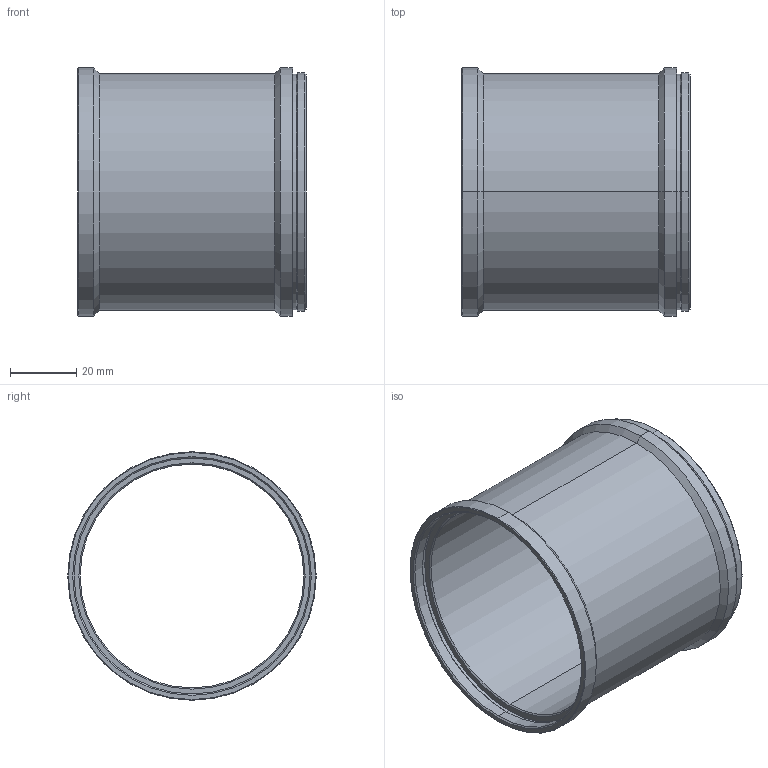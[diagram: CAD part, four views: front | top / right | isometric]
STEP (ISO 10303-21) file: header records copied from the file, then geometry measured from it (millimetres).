
FILE_DESCRIPTION (( 'STEP AP203' ), '1' );
FILE_NAME ('VS-EXR65_M72.STEP', '2018-11-08T00:07:25', ( '' ), ( '' ), 'SwSTEP 2.0', 'SolidWorks 2018', '' );
FILE_SCHEMA (( 'CONFIG_CONTROL_DESIGN' ));
Length unit declared in the file: millimetre
Products named in the file (1): VS-EXR65_M72
Bounding box: 68.9 x 75 x 75 mm (x, y, z)
Volume: 32104.5 mm3; surface area: 32246 mm2
Topology: 1 solids, 1 shells, 40 faces, 80 edges, 44 vertices
Faces by surface type: cone 20, cylinder 16, plane 4
Entity records: 1105 total; most frequent: DIRECTION 206, CARTESIAN_POINT 165, ORIENTED_EDGE 160, AXIS2_PLACEMENT_3D 85, EDGE_CURVE 80, CIRCLE 44, VERTEX_POINT 44, EDGE_LOOP 44
